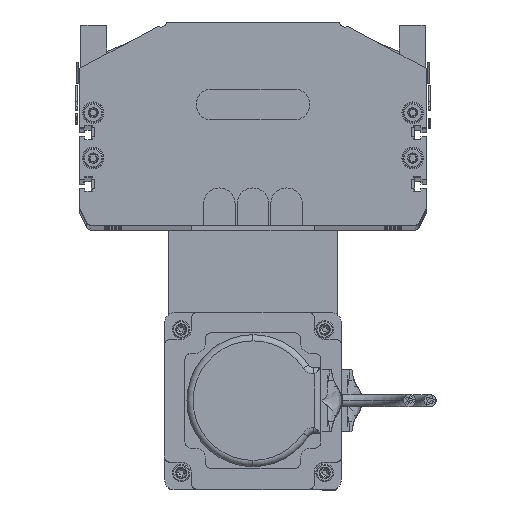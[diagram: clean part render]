
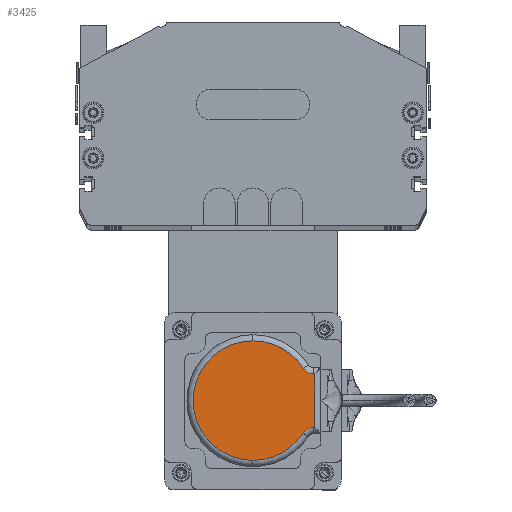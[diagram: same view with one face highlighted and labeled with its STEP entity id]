
A CAD part, top view. The second image highlights one B-rep face of the part: STEP entity #3425.
In plain terms, the highlighted planar face has unit normal (0, 0, 1).
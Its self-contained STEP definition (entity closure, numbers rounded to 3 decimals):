
#3425 = ADVANCED_FACE ( 'NONE', ( #69532 ), #69536, .T. ) ;
#3468 = EDGE_CURVE ( 'NONE', #28869, #3761, #69538, .T. ) ;
#3478 = ORIENTED_EDGE ( 'NONE', *, *, #3468, .T. ) ;
#3487 = ORIENTED_EDGE ( 'NONE', *, *, #4155, .F. ) ;
#3488 = VERTEX_POINT ( 'NONE', #69531 ) ;
#3501 = ORIENTED_EDGE ( 'NONE', *, *, #3502, .F. ) ;
#3502 = EDGE_CURVE ( 'NONE', #3762, #3761, #69575, .T. ) ;
#3504 = ORIENTED_EDGE ( 'NONE', *, *, #29155, .T. ) ;
#3727 = ORIENTED_EDGE ( 'NONE', *, *, #3756, .T. ) ;
#3731 = EDGE_CURVE ( 'NONE', #3488, #29720, #69620, .T. ) ;
#3735 = EDGE_CURVE ( 'NONE', #3760, #3488, #69612, .T. ) ;
#3756 = EDGE_CURVE ( 'NONE', #3762, #3760, #69680, .T. ) ;
#3760 = VERTEX_POINT ( 'NONE', #69681 ) ;
#3761 = VERTEX_POINT ( 'NONE', #69676 ) ;
#3762 = VERTEX_POINT ( 'NONE', #69673 ) ;
#3764 = ORIENTED_EDGE ( 'NONE', *, *, #29446, .T. ) ;
#4155 = EDGE_CURVE ( 'NONE', #29141, #29720, #70371, .T. ) ;
#28332 = VERTEX_POINT ( 'NONE', #73470 ) ;
#28869 = VERTEX_POINT ( 'NONE', #73623 ) ;
#29141 = VERTEX_POINT ( 'NONE', #73635 ) ;
#29155 = EDGE_CURVE ( 'NONE', #29141, #28332, #73658, .T. ) ;
#29446 = EDGE_CURVE ( 'NONE', #28332, #28869, #73702, .T. ) ;
#29720 = VERTEX_POINT ( 'NONE', #73521 ) ;
#29738 = EDGE_LOOP ( 'NONE', ( #3487, #3504, #3764, #3478, #3501, #3727, #29747, #29749 ) ) ;
#29747 = ORIENTED_EDGE ( 'NONE', *, *, #3735, .T. ) ;
#29749 = ORIENTED_EDGE ( 'NONE', *, *, #3731, .T. ) ;
#69531 = CARTESIAN_POINT ( 'NONE',  ( 20., 63., 26. ) ) ;
#69532 = FACE_OUTER_BOUND ( 'NONE', #29738, .T. ) ;
#69536 = PLANE ( 'NONE',  #69590 ) ;
#69538 = CIRCLE ( 'NONE', #69584, 29. ) ;
#69568 = DIRECTION ( 'NONE',  ( 1., 0., 0. ) ) ;
#69569 = DIRECTION ( 'NONE',  ( 0., 0., 1. ) ) ;
#69573 = CARTESIAN_POINT ( 'NONE',  ( 52., 62.394, 26. ) ) ;
#69574 = AXIS2_PLACEMENT_3D ( 'NONE', #69573, #69569, #69568 ) ;
#69575 = CIRCLE ( 'NONE', #69574, 6. ) ;
#69576 = DIRECTION ( 'NONE',  ( 1., 0., 0. ) ) ;
#69577 = DIRECTION ( 'NONE',  ( 0., 0., 1. ) ) ;
#69584 = AXIS2_PLACEMENT_3D ( 'NONE', #69586, #69577, #69576 ) ;
#69586 = CARTESIAN_POINT ( 'NONE',  ( 33., 33., 26. ) ) ;
#69587 = DIRECTION ( 'NONE',  ( 1., 0., 0. ) ) ;
#69588 = DIRECTION ( 'NONE',  ( 0., 0., 1. ) ) ;
#69589 = CARTESIAN_POINT ( 'NONE',  ( 33., 33., 26. ) ) ;
#69590 = AXIS2_PLACEMENT_3D ( 'NONE', #69589, #69588, #69587 ) ;
#69600 = DIRECTION ( 'NONE',  ( -1., 0., 0. ) ) ;
#69601 = VECTOR ( 'NONE', #69600, 1000. ) ;
#69611 = CARTESIAN_POINT ( 'NONE',  ( 17.5, 63., 26. ) ) ;
#69612 = LINE ( 'NONE', #69611, #69601 ) ;
#69617 = DIRECTION ( 'NONE',  ( 0., -1., 0. ) ) ;
#69618 = VECTOR ( 'NONE', #69617, 1000. ) ;
#69619 = CARTESIAN_POINT ( 'NONE',  ( 20., 33., 26. ) ) ;
#69620 = LINE ( 'NONE', #69619, #69618 ) ;
#69673 = CARTESIAN_POINT ( 'NONE',  ( 46., 62.394, 26. ) ) ;
#69676 = CARTESIAN_POINT ( 'NONE',  ( 48.743, 57.355, 26. ) ) ;
#69677 = DIRECTION ( 'NONE',  ( 0., 1., 0. ) ) ;
#69678 = VECTOR ( 'NONE', #69677, 1000. ) ;
#69679 = CARTESIAN_POINT ( 'NONE',  ( 46., 33., 26. ) ) ;
#69680 = LINE ( 'NONE', #69679, #69678 ) ;
#69681 = CARTESIAN_POINT ( 'NONE',  ( 46., 63., 26. ) ) ;
#70371 = CIRCLE ( 'NONE', #70409, 6. ) ;
#70406 = DIRECTION ( 'NONE',  ( 1., 0., 0. ) ) ;
#70407 = DIRECTION ( 'NONE',  ( 0., 0., 1. ) ) ;
#70408 = CARTESIAN_POINT ( 'NONE',  ( 14., 62.394, 26. ) ) ;
#70409 = AXIS2_PLACEMENT_3D ( 'NONE', #70408, #70407, #70406 ) ;
#73470 = CARTESIAN_POINT ( 'NONE',  ( 4., 33., 26. ) ) ;
#73521 = CARTESIAN_POINT ( 'NONE',  ( 20., 62.394, 26. ) ) ;
#73623 = CARTESIAN_POINT ( 'NONE',  ( 62., 33., 26. ) ) ;
#73635 = CARTESIAN_POINT ( 'NONE',  ( 17.257, 57.355, 26. ) ) ;
#73653 = DIRECTION ( 'NONE',  ( 1., 0., 0. ) ) ;
#73654 = DIRECTION ( 'NONE',  ( 0., 0., 1. ) ) ;
#73655 = CARTESIAN_POINT ( 'NONE',  ( 33., 33., 26. ) ) ;
#73657 = AXIS2_PLACEMENT_3D ( 'NONE', #73655, #73654, #73653 ) ;
#73658 = CIRCLE ( 'NONE', #73657, 29. ) ;
#73694 = DIRECTION ( 'NONE',  ( 1., 0., 0. ) ) ;
#73695 = DIRECTION ( 'NONE',  ( 0., 0., 1. ) ) ;
#73696 = AXIS2_PLACEMENT_3D ( 'NONE', #73706, #73695, #73694 ) ;
#73702 = CIRCLE ( 'NONE', #73696, 29. ) ;
#73706 = CARTESIAN_POINT ( 'NONE',  ( 33., 33., 26. ) ) ;
